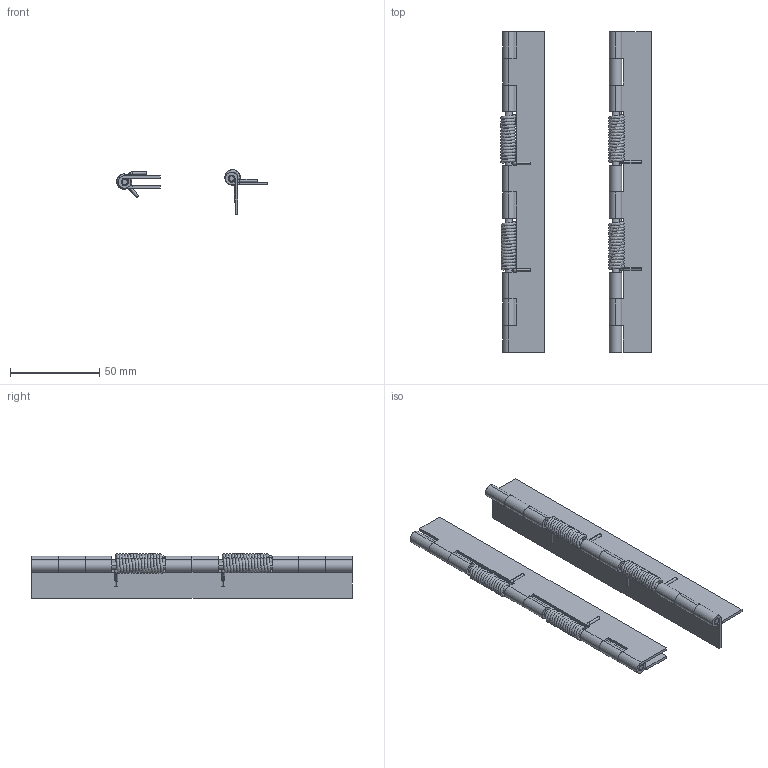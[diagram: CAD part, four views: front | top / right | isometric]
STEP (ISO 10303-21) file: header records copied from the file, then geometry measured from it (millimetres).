
FILE_DESCRIPTION((''),'2;1');
FILE_NAME('6165.01-02.stp','2015-07-17T09:21:02',(''),(''),'Mechanical Desktop 2006','Mechanical Desktop 2006',', , ');
FILE_SCHEMA(('CONFIG_CONTROL_DESIGN'));
Length unit declared in the file: millimetre
Products named in the file (4): 6165; TEIL1; TEIL2; DREHFEDERN - 1.600000 X 8.400000 X 15.000000
Assembly tree (4 placements, depth 2):
  6165
    TEIL1
    TEIL2
    DREHFEDERN - 1.600000 X 8.400000 X 15.000000  x2
Bounding box: 84.49 x 180 x 24.99 mm (x, y, z)
Volume: 31225.1 mm3; surface area: 46826.4 mm2
Topology: 10 solids, 10 shells, 202 faces, 522 edges, 340 vertices
Faces by surface type: plane 92, bspline 86, cylinder 12, torus 8, cone 4
Entity records: 25724 total; most frequent: CARTESIAN_POINT 21050, ORIENTED_EDGE 996, DIRECTION 900, EDGE_CURVE 498, VERTEX_POINT 326, VECTOR 302, LINE 302, AXIS2_PLACEMENT_3D 299
